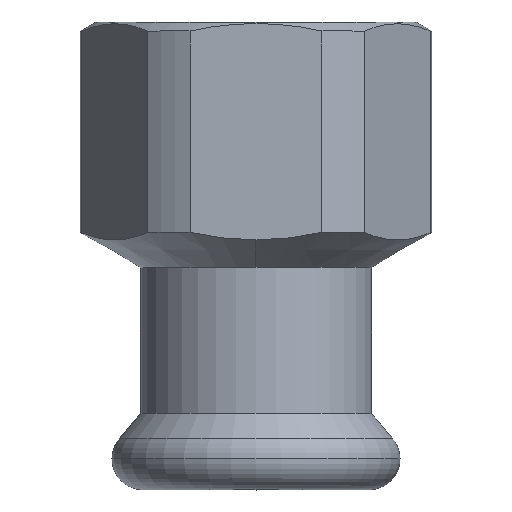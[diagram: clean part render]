
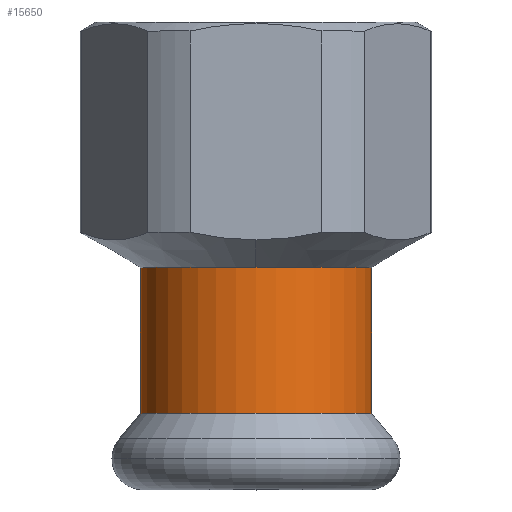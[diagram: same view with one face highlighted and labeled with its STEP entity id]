
A CAD part, top view. The second image highlights one B-rep face of the part: STEP entity #15650.
In plain terms, the highlighted cylindrical face has radius 10.625 mm (diameter 21.25 mm), a partial arc.
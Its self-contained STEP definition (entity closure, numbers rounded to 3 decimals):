
#12380=CARTESIAN_POINT('',(-335.729,25.435,
0.));
#12390=DIRECTION('',(-1.,0.,0.));
#12400=DIRECTION('',(0.,0.,-1.));
#12410=AXIS2_PLACEMENT_3D('',#12380,#12390,#12400);
#12420=CIRCLE('',#12410,10.625);
#12430=CARTESIAN_POINT('',(-335.729,25.435,10.625));
#12440=VERTEX_POINT('',#12430);
#12450=CARTESIAN_POINT('',(-335.729,36.06,
0.));
#12460=VERTEX_POINT('',#12450);
#12470=EDGE_CURVE('',#12440,#12460,#12420,.T.);
#12770=CARTESIAN_POINT('',(-329.072,25.435,0.));
#12780=DIRECTION('',(-1.,0.,0.));
#12790=DIRECTION('',(0.,-1.,0.));
#12800=AXIS2_PLACEMENT_3D('',#12770,#12780,#12790);
#12810=CYLINDRICAL_SURFACE('',#12800,10.625);
#12820=CARTESIAN_POINT('',(-335.729,14.81,0.));
#12830=VERTEX_POINT('',#12820);
#12860=CARTESIAN_POINT('',(-329.072,14.81,0.));
#12870=DIRECTION('',(-1.,0.,0.));
#12880=VECTOR('',#12870,1.);
#12890=LINE('',#12860,#12880);
#12900=CARTESIAN_POINT('',(-322.307,14.81,0.));
#12910=VERTEX_POINT('',#12900);
#12920=EDGE_CURVE('',#12910,#12830,#12890,.T.);
#12940=CARTESIAN_POINT('',(-322.307,25.435,0.));
#12950=DIRECTION('',(1.,0.,0.));
#12960=DIRECTION('',(0.,-1.,0.));
#12970=AXIS2_PLACEMENT_3D('',#12940,#12950,#12960);
#12980=CIRCLE('',#12970,10.625);
#12990=CARTESIAN_POINT('',(-322.307,36.06,
0.));
#13000=VERTEX_POINT('',#12990);
#13030=CARTESIAN_POINT('',(-329.072,36.06,
0.));
#13040=DIRECTION('',(-1.,0.,0.));
#13050=VECTOR('',#13040,1.);
#13060=LINE('',#13030,#13050);
#13070=EDGE_CURVE('',#13000,#12460,#13060,.T.);
#13410=EDGE_CURVE('',#13000,#12910,#12980,.T.);
#14790=EDGE_CURVE('',#12830,#12440,#12420,.T.);
#15580=ORIENTED_EDGE('',*,*,#12920,.F.);
#15590=ORIENTED_EDGE('',*,*,#14790,.F.);
#15600=ORIENTED_EDGE('',*,*,#12470,.F.);
#15610=ORIENTED_EDGE('',*,*,#13070,.T.);
#15620=ORIENTED_EDGE('',*,*,#13410,.F.);
#15630=EDGE_LOOP('',(#15620,#15610,#15600,#15590,#15580));
#15640=FACE_OUTER_BOUND('',#15630,.T.);
#15650=ADVANCED_FACE('',(#15640),#12810,.T.);
